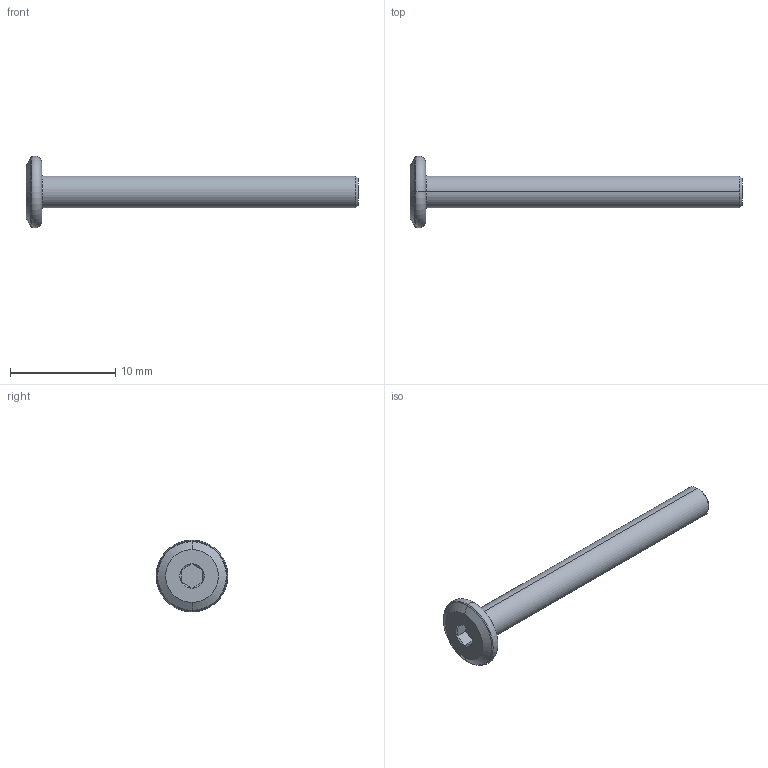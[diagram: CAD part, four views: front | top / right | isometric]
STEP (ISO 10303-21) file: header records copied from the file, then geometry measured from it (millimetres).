
FILE_DESCRIPTION (( 'STEP AP203' ), '1' );
FILE_NAME ('LGD-304D-M3x30.STEP', '2026-08-13T04:21:06', ( '' ), ( '' ), 'SwSTEP 2.0', 'SolidWorks 2020', '' );
FILE_SCHEMA (( 'CONFIG_CONTROL_DESIGN' ));
Length unit declared in the file: millimetre
Products named in the file (1): LGD-304D-M3x30
Bounding box: 31.5 x 6.8 x 6.8 mm (x, y, z)
Volume: 255.2 mm3; surface area: 377.7 mm2
Topology: 1 solids, 1 shells, 28 faces, 52 edges, 28 vertices
Faces by surface type: cone 10, plane 10, torus 6, cylinder 2
Entity records: 779 total; most frequent: CARTESIAN_POINT 139, DIRECTION 132, ORIENTED_EDGE 104, AXIS2_PLACEMENT_3D 57, EDGE_CURVE 52, EDGE_LOOP 30, VERTEX_POINT 28, ADVANCED_FACE 28
